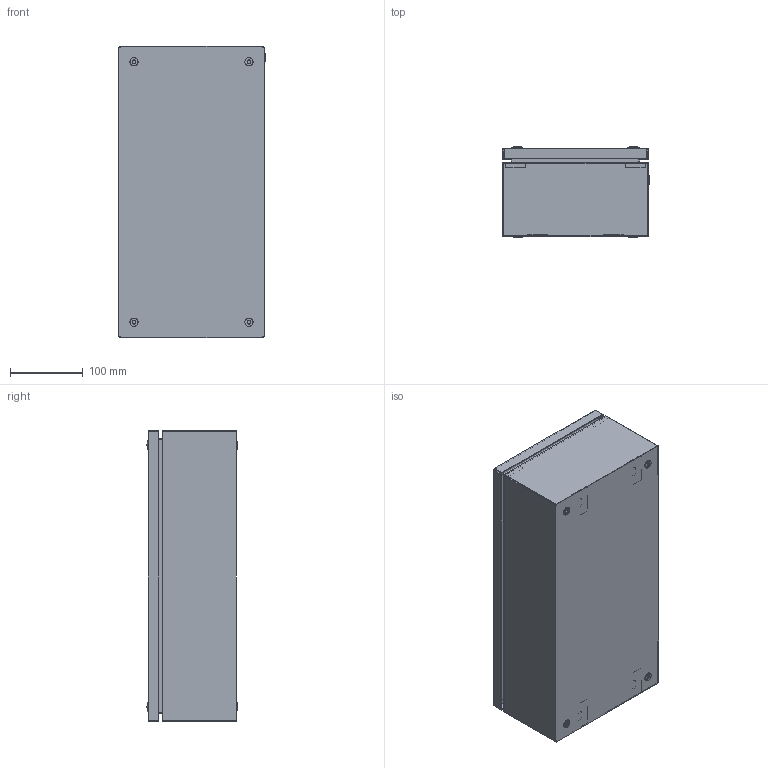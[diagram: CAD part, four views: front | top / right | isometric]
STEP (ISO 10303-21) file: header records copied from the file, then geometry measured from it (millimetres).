
FILE_DESCRIPTION(('Open CASCADE Model'),'2;1');
FILE_NAME('Open CASCADE Shape Model','2025-11-18T11:38:31',('Author'),( 'Open CASCADE'),'Open CASCADE STEP processor 7.8','Open CASCADE 7.8' ,'Unknown');
FILE_SCHEMA(('AUTOMOTIVE_DESIGN { 1 0 10303 214 1 1 1 1 }'));
Length unit declared in the file: millimetre
Products named in the file (18): Compound1; Compound2; Compound3; Compound4; Solid1; Solid2; Solid3; Solid4; Solid5; Solid6; Compound5; Compound6; Solid7; Solid8; Solid9; Solid10; Solid11; Solid12
Assembly tree (33 placements, depth 5):
  Compound1
    Compound2
      Compound3
        Compound4
          Solid1
          Solid2  x2
          Solid3  x2
          Solid4  x2
          Solid5
        Solid6
      Compound5
        Compound6
          Solid7
          Solid5
        Solid8
      Solid9  x4
      Solid10  x4
      Solid11  x4
    Solid12  x4
Bounding box: 201.5 x 123.79 x 400 mm (x, y, z)
Volume: 534064.8 mm3; surface area: 761641.8 mm2
Topology: 28 solids, 28 shells, 934 faces, 2505 edges, 1656 vertices
Faces by surface type: plane 673, cylinder 135, cone 48, bspline 40, torus 30, sphere 8
Full cylindrical faces by diameter (mm): 4 x14, 4.134 x4, 5 x9, 5.2 x4, 5.3 x4, 5.5 x4, 6 x2, 6.5 x4, 7.5 x6, 7.8 x4, 8 x4, 8.5 x5, 9 x1, 9.1 x1, 11.5 x4, 12 x1, 13.5 x4, 15.791 x4
Entity records: 15974 total; most frequent: CARTESIAN_POINT 4907, ORIENTED_EDGE 2324, DIRECTION 2072, EDGE_CURVE 1162, VERTEX_POINT 768, LINE 758, VECTOR 758, AXIS2_PLACEMENT_3D 657
